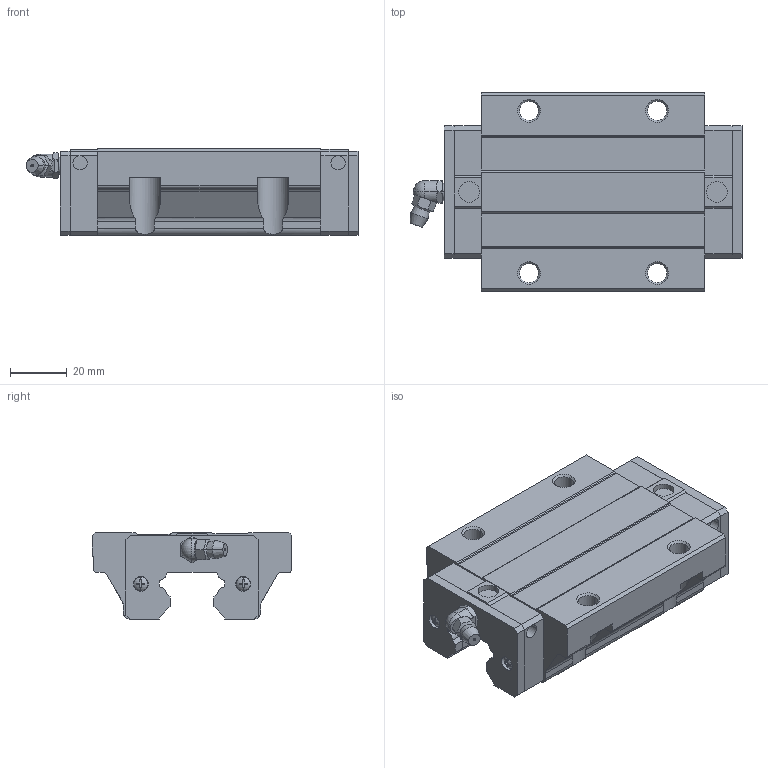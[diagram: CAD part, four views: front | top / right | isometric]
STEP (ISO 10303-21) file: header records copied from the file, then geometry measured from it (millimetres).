
FILE_DESCRIPTION(('starvars output'),'2;1');
FILE_NAME('cv20190625230633000113834.stp','23:06:33 2019/06/25',( 'Thomas Industrial Network Germany GmbH'),( 'Thomas Industrial Network Germany GmbH'),'unknown preprocess','ACIS' ,'unknown authorization');
FILE_SCHEMA(('CONFIG_CONTROL_DESIGN {UNKNOWN IMPLEMENTATION LEVEL}'));
Length unit declared in the file: millimetre
Products named in the file (10): PRODUCT_ID_2; PRODUCT_ID_3; PRODUCT_ID_4; PRODUCT_ID_5; PRODUCT_ID_6; PRODUCT_ID_7; PRODUCT_ID_8; PRODUCT_ID_9; PRODUCT_ID_10; PRODUCT_ID_11
Bounding box: 116.6 x 70 x 30.5 mm (x, y, z)
Volume: 141695.3 mm3; surface area: 36740.4 mm2
Topology: 10 solids, 10 shells, 424 faces, 1125 edges, 726 vertices
Faces by surface type: plane 272, cylinder 84, cone 56, sphere 12
Entity records: 12726 total; most frequent: ORIENTED_EDGE 2242, CARTESIAN_POINT 2217, DIRECTION 1730, EDGE_CURVE 1121, VERTEX_POINT 726, VECTOR 712, LINE 712, AXIS2_PLACEMENT_3D 509
